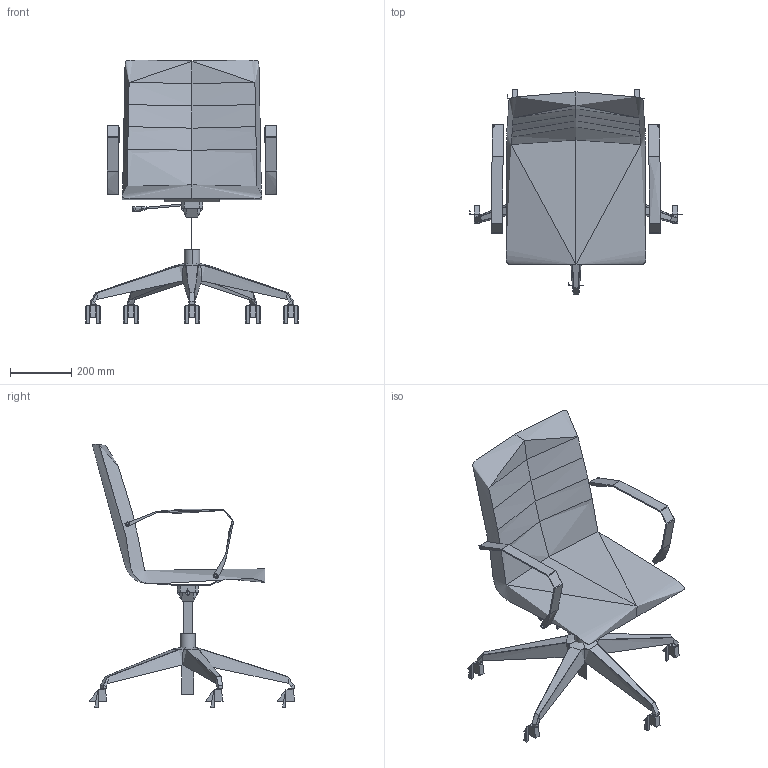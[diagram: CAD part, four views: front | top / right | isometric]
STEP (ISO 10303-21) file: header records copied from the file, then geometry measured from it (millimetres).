
FILE_DESCRIPTION(/* description */ (''),/* implementation_level */ '2;1');
FILE_NAME(/* name */ 'OSLO22~1',/* time_stamp */ '2017-08-07T20:58:18+02:00',/* author */ (''),/* organization */ (''),/* preprocessor_version */ 'ST-DEVELOPER v15',/* originating_system */ '',/* authorisation */ '');
FILE_SCHEMA (('CONFIG_CONTROL_DESIGN'));
Length unit declared in the file: millimetre
Products named in the file (1): Document
Bounding box: 694.82 x 671.18 x 861.69 mm (x, y, z)
Volume: 17788056.2 mm3; surface area: 1447923.6 mm2
Topology: 6 solids, 36 shells, 376 faces, 897 edges, 538 vertices
Faces by surface type: bspline 260, plane 116
Entity records: 22257 total; most frequent: CARTESIAN_POINT 17063, ORIENTED_EDGE 1628, EDGE_CURVE 869, VERTEX_POINT 534, B_SPLINE_CURVE_WITH_KNOTS 410, EDGE_LOOP 388, ADVANCED_FACE 376, FACE_OUTER_BOUND 376
